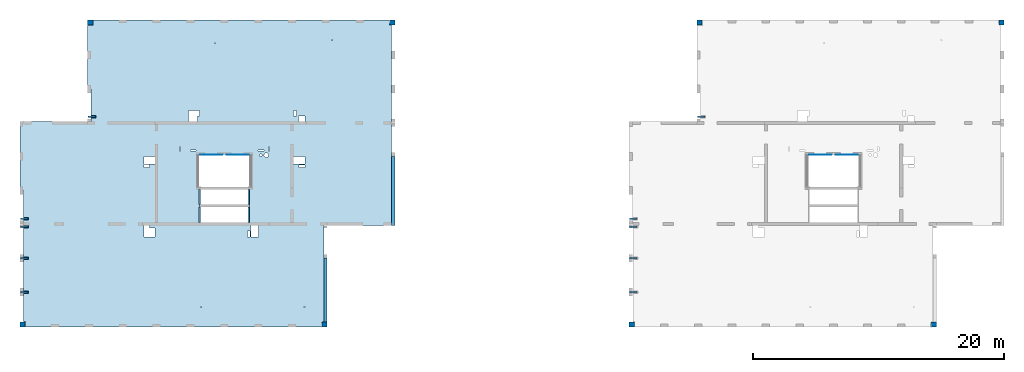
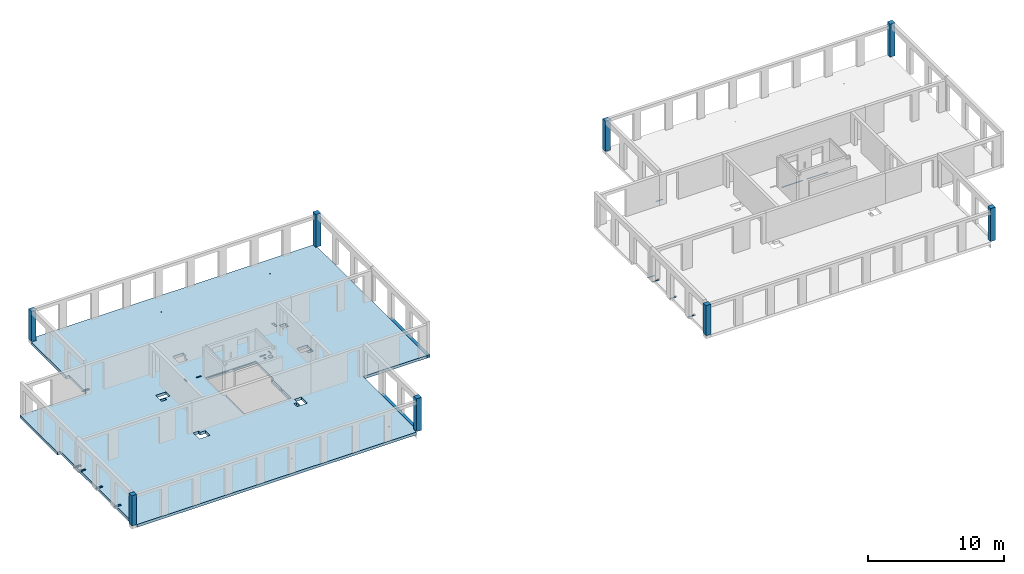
# One storey, part 1 of 13: 14 beams, 8 columns, 3 slabs, 34 openings.
"""IFC2X3 building model written with IfcOpenShell, lengths in millimetres."""

from ifc_helpers import new_model, entity, si_unit, converted_unit, derived_unit, direction, frame, frame_2d, origin, origin_2d_with_axis, place, context, subcontext, project, spatial, polyline, rectangle, circle, outline, extrude, source, transform, mapped, material, layer, layer_set, layer_usage, type_object, type_shapes, element, save


model = new_model("IFC2X3")

# Units and contexts
model_context = context("Model", 3, precision=0.01, world=origin(), true_north=direction((6.12303176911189e-17, 1.0)))
body_context = subcontext(model_context, "Body", "Model", "MODEL_VIEW")
ifc_project = project(units=[si_unit("LENGTHUNIT", "METRE", prefix="MILLI"), si_unit("AREAUNIT", "SQUARE_METRE"), si_unit("VOLUMEUNIT", "CUBIC_METRE"), converted_unit("PLANEANGLEUNIT", "DEGREE", entity("IfcRatioMeasure", 0.0174532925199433), si_unit("PLANEANGLEUNIT", "RADIAN"), dimensions=[0, 0, 0, 0, 0, 0, 0]), si_unit("MASSUNIT", "GRAM", prefix="KILO"), derived_unit("MASSDENSITYUNIT", [(si_unit("MASSUNIT", "GRAM", prefix="KILO"), 1), (si_unit("LENGTHUNIT", "METRE"), -3)]), si_unit("TIMEUNIT", "SECOND"), si_unit("FREQUENCYUNIT", "HERTZ"), si_unit("THERMODYNAMICTEMPERATUREUNIT", "DEGREE_CELSIUS"), derived_unit("THERMALTRANSMITTANCEUNIT", [(si_unit("MASSUNIT", "GRAM", prefix="KILO"), 1), (si_unit("THERMODYNAMICTEMPERATUREUNIT", "KELVIN"), -1), (si_unit("TIMEUNIT", "SECOND"), -3)]), derived_unit("VOLUMETRICFLOWRATEUNIT", [(si_unit("LENGTHUNIT", "METRE"), 3), (si_unit("TIMEUNIT", "SECOND"), -1)]), si_unit("ELECTRICCURRENTUNIT", "AMPERE"), si_unit("ELECTRICVOLTAGEUNIT", "VOLT"), si_unit("POWERUNIT", "WATT"), si_unit("FORCEUNIT", "NEWTON", prefix="KILO"), si_unit("ILLUMINANCEUNIT", "LUX"), si_unit("LUMINOUSFLUXUNIT", "LUMEN"), si_unit("LUMINOUSINTENSITYUNIT", "CANDELA"), derived_unit("USERDEFINED", [(si_unit("MASSUNIT", "GRAM", prefix="KILO"), -1), (si_unit("LENGTHUNIT", "METRE"), -2), (si_unit("TIMEUNIT", "SECOND"), 3), (si_unit("LUMINOUSFLUXUNIT", "LUMEN"), 1)]), derived_unit("LINEARVELOCITYUNIT", [(si_unit("LENGTHUNIT", "METRE"), 1), (si_unit("TIMEUNIT", "SECOND"), -1)]), si_unit("PRESSUREUNIT", "PASCAL"), derived_unit("USERDEFINED", [(si_unit("LENGTHUNIT", "METRE"), -2), (si_unit("MASSUNIT", "GRAM", prefix="KILO"), 1), (si_unit("TIMEUNIT", "SECOND"), -2)])], contexts=[model_context])

# Site, building, storey
site_placement = place(None, origin())
site = spatial("IfcSite", under=ifc_project, at=site_placement, Name="Default", CompositionType="ELEMENT")
building_placement = place(site_placement, origin())
building = spatial("IfcBuilding", under=site, at=building_placement, Name="niet gebruiken", CompositionType="ELEMENT")
storey_placement = place(building_placement, frame((0.0, 0.0, 60120.0)))
storey = spatial("IfcBuildingStorey", under=building, at=storey_placement, Name="20 twintigste verdieping", CompositionType="ELEMENT", Elevation=60120.0)

# Columns
ifc_material_1 = material(Name="NLRS_f2_beton prefab")
column_type_1 = type_object("IfcColumnType", Name="410x410", PredefinedType="COLUMN", material=ifc_material_1)
shared_shape_1 = source(origin(), body_context, "Body", "SweptSolid", [
    extrude(rectangle(XDim=410.000000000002, YDim=409.999999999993, at=frame_2d((-4.33431068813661e-12, 0.0), x_axis=(1.0, 0.0))), frame((99795.0, 28961.0, 60050.0), z_axis=(0.0, 0.0, 1.0), x_axis=(0.0, -1.0, 0.0)), (0.0, 0.0, 1.0), 2950.00000000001),
])
type_shapes(column_type_1, [shared_shape_1])
column_1_placement = place(storey_placement, frame((0.0, 0.0, -60120.0)))
element("IfcColumn", 1, at=column_1_placement, inside=storey, type_object=column_type_1, material=ifc_material_1, Name="NLRS_28. kolom vierkant_gen:410x410", ObjectType="410x410", context=body_context, shape_type="MappedRepresentation", body=[
    mapped(shared_shape_1, transform((0.0, 0.0, 0.0), scale=1.0)),
])
column_type_2 = type_object("IfcColumnType", Name="410x410", PredefinedType="COLUMN", material=ifc_material_1)
shared_shape_2 = source(origin(), body_context, "Body", "SweptSolid", [
    extrude(rectangle(XDim=410.0, YDim=410.0, at=origin_2d_with_axis()), frame((0.0, 0.0, 60050.0), z_axis=(0.0, 0.0, 1.0), x_axis=(0.0, -1.0, 0.0)), (0.0, 0.0, 1.0), 2700.0),
])
type_shapes(column_type_2, [shared_shape_2])
for number, where, z_axis, x_axis, name in (
    (2, (75705.0, 28961.0, -60120.0), (0.0, 0.0, 1.0), (0.0, 1.0, 0.0), "NLRS_28. kolom vierkant_gen1:410x410"),
    (3, (27105.0, 28961.0, -60120.0), (0.0, 0.0, 1.0), (0.0, 1.0, 0.0), "NLRS_28. kolom vierkant_gen1:410x410"),
):
    element("IfcColumn", number, at=place(storey_placement, frame(where, z_axis=z_axis, x_axis=x_axis)), inside=storey, type_object=column_type_2, material=ifc_material_1, Name=name, ObjectType="410x410", context=body_context, shape_type="MappedRepresentation", body=[
        mapped(shared_shape_2, transform((0.0, 0.0, 0.0), scale=1.0)),
    ])
column_type_3 = type_object("IfcColumnType", Name="410x410", PredefinedType="COLUMN", material=ifc_material_1)
shared_shape_3 = source(origin(), body_context, "Body", "SweptSolid", [
    extrude(rectangle(XDim=410.000000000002, YDim=409.999999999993, at=origin_2d_with_axis()), frame((105195.0, 53051.0, 60050.0), z_axis=(0.0, 0.0, 1.0), x_axis=(0.0, -1.0, 0.0)), (0.0, 0.0, 1.0), 2950.00000000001),
])
type_shapes(column_type_3, [shared_shape_3])
column_2_placement = place(storey_placement, frame((0.0, 0.0, -60120.0)))
element("IfcColumn", 4, at=column_2_placement, inside=storey, type_object=column_type_3, material=ifc_material_1, Name="NLRS_28. kolom vierkant_gen:410x410", ObjectType="410x410", context=body_context, shape_type="MappedRepresentation", body=[
    mapped(shared_shape_3, transform((0.0, 0.0, 0.0), scale=1.0)),
])
column_type_4 = type_object("IfcColumnType", Name="410x410", PredefinedType="COLUMN", material=ifc_material_1)
shared_shape_4 = source(origin(), body_context, "Body", "SweptSolid", [
    extrude(rectangle(XDim=410.0, YDim=410.0, at=origin_2d_with_axis()), frame((0.0, 0.0, 60050.0), z_axis=(0.0, 0.0, 1.0), x_axis=(0.0, -1.0, 0.0)), (0.0, 0.0, 1.0), 2700.0),
])
type_shapes(column_type_4, [shared_shape_4])
for number, where, name in (
    (5, (81105.0, 53051.0, -60120.0), "NLRS_28. kolom vierkant_gen:410x410"),
    (6, (32505.0, 53051.0, -60120.0), "NLRS_28. kolom vierkant_gen:410x410"),
):
    element("IfcColumn", number, at=place(storey_placement, frame(where)), inside=storey, type_object=column_type_4, material=ifc_material_1, Name=name, ObjectType="410x410", context=body_context, shape_type="MappedRepresentation", body=[
        mapped(shared_shape_4, transform((0.0, 0.0, 0.0), scale=1.0)),
    ])
column_type_5 = type_object("IfcColumnType", Name="410x410", PredefinedType="COLUMN", material=ifc_material_1)
shared_shape_5 = source(origin(), body_context, "Body", "SweptSolid", [
    extrude(rectangle(XDim=410.000000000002, YDim=410.000000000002, at=frame_2d((4.33431068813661e-12, 0.0), x_axis=(1.0, 0.0))), frame((51195.0, 28961.0, 60050.0), z_axis=(0.0, 0.0, 1.0), x_axis=(0.0, -1.0, 0.0)), (0.0, 0.0, 1.0), 2950.00000000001),
])
type_shapes(column_type_5, [shared_shape_5])
column_3_placement = place(storey_placement, frame((0.0, 0.0, -60120.0)))
element("IfcColumn", 7, at=column_3_placement, inside=storey, type_object=column_type_5, material=ifc_material_1, Name="NLRS_28. kolom vierkant_gen:410x410", ObjectType="410x410", context=body_context, shape_type="MappedRepresentation", body=[
    mapped(shared_shape_5, transform((0.0, 0.0, 0.0), scale=1.0)),
])
column_type_6 = type_object("IfcColumnType", Name="410x410", PredefinedType="COLUMN", material=ifc_material_1)
shared_shape_6 = source(origin(), body_context, "Body", "SweptSolid", [
    extrude(rectangle(XDim=410.000000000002, YDim=410.000000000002, at=origin_2d_with_axis()), frame((56595.0, 53051.0, 60050.0), z_axis=(0.0, 0.0, 1.0), x_axis=(0.0, -1.0, 0.0)), (0.0, 0.0, 1.0), 2950.00000000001),
])
type_shapes(column_type_6, [shared_shape_6])
column_4_placement = place(storey_placement, frame((0.0, 0.0, -60120.0)))
element("IfcColumn", 8, at=column_4_placement, inside=storey, type_object=column_type_6, material=ifc_material_1, Name="NLRS_28. kolom vierkant_gen:410x410", ObjectType="410x410", context=body_context, shape_type="MappedRepresentation", body=[
    mapped(shared_shape_6, transform((0.0, 0.0, 0.0), scale=1.0)),
])

# Beams
ifc_material_2 = material(Name="NLRS_h2_staal")
beam_type_1 = type_object("IfcBeamType", Name="ligger stripstaal RECT_120x10", PredefinedType="BEAM", material=ifc_material_2)
shared_shape_7 = source(origin(), body_context, "Body", "SweptSolid", [
    extrude(rectangle(XDim=599.999999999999, YDim=120.0, at=origin_2d_with_axis()), frame((0.0, 0.0, -5.0), z_axis=(0.0, 0.0, 1.0), x_axis=(-1.0, 0.0, 0.0)), (0.0, 0.0, 1.0), 9.99999999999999),
    extrude(rectangle(XDim=599.999999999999, YDim=120.0, at=origin_2d_with_axis()), frame((0.0, 0.0, -5.0), z_axis=(0.0, 0.0, 1.0), x_axis=(-1.0, 0.0, 0.0)), (0.0, 0.0, 1.0), 9.99999999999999),
])
type_shapes(beam_type_1, [shared_shape_7])
for number, where, name in (
    (9, (27235.0, 31556.0, -115.0), "NLRS_28.11_SF_WPB_stalen ligger stripstaal_gen:ligger stripstaal RECT_120x10"),
    (10, (27235.0, 34256.0, -115.0), "NLRS_28.11_SF_WPB_stalen ligger stripstaal_gen:ligger stripstaal RECT_120x10"),
    (11, (27235.0, 36766.0, -115.0), "NLRS_28.11_SF_WPB_stalen ligger stripstaal_gen:ligger stripstaal RECT_120x10"),
    (12, (75835.0, 31556.0, -115.0), "NLRS_28.11_SF_WPB_stalen ligger stripstaal_gen:ligger stripstaal RECT_120x10"),
    (13, (75835.0, 34256.0, -115.0), "NLRS_28.11_SF_WPB_stalen ligger stripstaal_gen:ligger stripstaal RECT_120x10"),
    (14, (75835.0, 36766.0, -115.0), "NLRS_28.11_SF_WPB_stalen ligger stripstaal_gen:ligger stripstaal RECT_120x10"),
):
    element("IfcBeam", number, at=place(storey_placement, frame(where)), inside=storey, type_object=beam_type_1, material=ifc_material_2, Name=name, ObjectType="ligger stripstaal RECT_120x10", context=body_context, shape_type="MappedRepresentation", body=[
        mapped(shared_shape_7, transform((0.0, 0.0, 0.0), scale=1.0)),
    ])
beam_type_2 = type_object("IfcBeamType", Name="NLRS_28.11_SF_WPB_Halfen 40-22_gen:ligger stripstaal RECT_100x10", PredefinedType="BEAM")
for number, where, name in (
    (15, (41264.9998491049, 42496.0, -160.0), "NLRS_28.11_SF_WPB_Halfen 40-22_gen:ligger stripstaal RECT_100x10"),
    (16, (43374.999849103, 42496.0, -160.0), "NLRS_28.11_SF_WPB_Halfen 40-22_gen:ligger stripstaal RECT_100x10"),
):
    element("IfcBeam", number, at=place(storey_placement, frame(where)), inside=storey, type_object=beam_type_2, material=ifc_material_2, Name=name, ObjectType="NLRS_28.11_SF_WPB_Halfen 40-22_gen:ligger stripstaal RECT_100x10", context=body_context, shape_type="SweptSolid", body=[
        extrude(outline(polyline([(-20.0, -8.0), (-9.0, -8.0), (-9.0, 0.0), (-11.0, 0.0), (-11.0, -6.0), (-18.0, -6.0), (-18.0, 13.0), (18.0, 13.0), (18.0, -6.0), (11.0, -6.0), (11.0, 0.0), (9.0, 0.0), (9.0, -8.0), (20.0, -8.0), (20.0, 15.0), (-20.0, 15.0), (-20.0, -8.0)])), frame((0.0, 8.0, 20.0), z_axis=(1.0, 0.0, 0.0), x_axis=(0.0, 0.0, -1.0)), (0.0, 0.0, 1.0), 1760.00000000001),
    ])
beam_1_placement = place(storey_placement, frame((89865.0, 42496.0, -160.0)))
element("IfcBeam", 17, at=beam_1_placement, inside=storey, type_object=beam_type_2, material=ifc_material_2, Name="NLRS_28.11_SF_WPB_Halfen 40-22_gen:ligger stripstaal RECT_100x10", ObjectType="NLRS_28.11_SF_WPB_Halfen 40-22_gen:ligger stripstaal RECT_100x10", context=body_context, shape_type="SweptSolid", body=[
    extrude(outline(polyline([(-20.0, -8.0), (-9.0, -8.0), (-9.0, 0.0), (-11.0, 0.0), (-11.0, -6.0), (-18.0, -6.0), (-18.0, 13.0), (18.0, 13.0), (18.0, -6.0), (11.0, -6.0), (11.0, 0.0), (9.0, 0.0), (9.0, -8.0), (20.0, -8.0), (20.0, 15.0), (-20.0, 15.0), (-20.0, -8.0)])), frame((0.0, 8.0, 20.0), z_axis=(1.0, 0.0, 0.0), x_axis=(0.0, 0.0, -1.0)), (0.0, 0.0, 1.0), 1760.00000000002),
])
beam_2_placement = place(storey_placement, frame((91975.0, 42496.0, -160.0)))
element("IfcBeam", 18, at=beam_2_placement, inside=storey, type_object=beam_type_2, material=ifc_material_2, Name="NLRS_28.11_SF_WPB_Halfen 40-22_gen:ligger stripstaal RECT_100x10", ObjectType="NLRS_28.11_SF_WPB_Halfen 40-22_gen:ligger stripstaal RECT_100x10", context=body_context, shape_type="SweptSolid", body=[
    extrude(outline(polyline([(-20.0, -8.0), (-9.0, -8.0), (-9.0, 0.0), (-11.0, 0.0), (-11.0, -6.0), (-18.0, -6.0), (-18.0, 13.0), (18.0, 13.0), (18.0, -6.0), (11.0, -6.0), (11.0, 0.0), (9.0, 0.0), (9.0, -8.0), (20.0, -8.0), (20.0, 15.0), (-20.0, 15.0), (-20.0, -8.0)])), frame((0.0, 8.0, 20.0), z_axis=(1.0, 0.0, 0.0), x_axis=(0.0, 0.0, -1.0)), (0.0, 0.0, 1.0), 1760.0),
])
beam_type_3 = type_object("IfcBeamType", Name="ligger stripstaal RECT_120x10", PredefinedType="BEAM", material=ifc_material_2)
shared_shape_8 = source(origin(), body_context, "Body", "SweptSolid", [
    extrude(rectangle(XDim=120.0, YDim=600.000000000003, at=origin_2d_with_axis()), frame((0.0, 0.0, -5.0), z_axis=(0.0, 0.0, 1.0), x_axis=(0.0, 1.0, 0.0)), (0.0, 0.0, 1.0), 9.99999999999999),
    extrude(rectangle(XDim=120.0, YDim=600.000000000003, at=origin_2d_with_axis()), frame((0.0, 0.0, -5.0), z_axis=(0.0, 0.0, 1.0), x_axis=(0.0, 1.0, 0.0)), (0.0, 0.0, 1.0), 9.99999999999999),
])
type_shapes(beam_type_3, [shared_shape_8])
for number, where, name in (
    (19, (27235.0, 37386.0, -115.0), "NLRS_28.11_SF_WPB_stalen ligger stripstaal_gen:ligger stripstaal RECT_120x10"),
    (20, (32635.0, 45521.0, -115.0), "NLRS_28.11_SF_WPB_stalen ligger stripstaal_gen:ligger stripstaal RECT_120x10"),
    (21, (75835.0, 37386.0, -115.0), "NLRS_28.11_SF_WPB_stalen ligger stripstaal_gen:ligger stripstaal RECT_120x10"),
    (22, (81235.0, 45521.0, -115.0), "NLRS_28.11_SF_WPB_stalen ligger stripstaal_gen:ligger stripstaal RECT_120x10"),
):
    element("IfcBeam", number, at=place(storey_placement, frame(where)), inside=storey, type_object=beam_type_3, material=ifc_material_2, Name=name, ObjectType="ligger stripstaal RECT_120x10", context=body_context, shape_type="MappedRepresentation", body=[
        mapped(shared_shape_8, transform((0.0, 0.0, 0.0), scale=1.0)),
    ])

# Slab, openings
ifc_material_3 = material(Name="NLRS_f2_beton ihwg")
ifc_layer = layer(ifc_material_3, 250.0)
ifc_layer_set = layer_set([ifc_layer], Name="Floor:NLRS_23.21_FL_beton ihwg d=250_gen")
ifc_layer_usage_1 = layer_usage(ifc_layer_set, "AXIS3", "POSITIVE", 0.0)
slab_1_placement = place(storey_placement, frame((26900.0, 28756.0, -340.0)))
slab_1 = element("IfcSlab", 23, at=slab_1_placement, inside=storey, material=ifc_layer_usage_1, Name="Floor:NLRS_23.21_FL_beton ihwg d=250_gen", ObjectType="Floor:NLRS_23.21_FL_beton ihwg d=250_gen", PredefinedType="FLOOR", context=body_context, shape_type="SweptSolid", body=[
    extrude(outline(polyline([(8995.0, 12250.0), (-14665.0, 12250.0), (-14665.0, 11840.0), (-14805.0, 11840.0), (-14805.0, 4060.0), (-14825.0, 4060.0), (-14825.0, -4150.0), (-9425.0, -4150.0), (-9425.0, -11890.0), (-9265.0, -11890.0), (-9265.0, -12250.0), (14395.0, -12250.0), (14395.0, -11820.0), (14535.0, -11820.0), (14535.0, -4040.0), (14555.0, -4040.0), (14555.0, -1350.0), (14825.0, -1350.0), (14825.0, 4150.0), (9155.0, 4150.0), (9155.0, 6750.0), (9425.0, 6750.0), (9425.0, 11820.0), (8995.0, 11820.0), (8995.0, 12250.0)])), frame((14825.0, 12250.0, 250.0), z_axis=(0.0, 0.0, -1.0), x_axis=(-1.0, 0.0, 0.0)), (0.0, 0.0, 1.0), 250.000000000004),
])
opening_1_placement = place(storey_placement, frame((26900.0, 28756.0, -340.0)))
element("IfcOpeningElement", 24, at=opening_1_placement, cuts=slab_1, ObjectType="Opening", context=body_context, shape_type="SweptSolid", body=[
    extrude(circle(Radius=37.5, at=frame_2d((-7875.0, -10650.0), x_axis=(1.0, 0.0))), frame((14825.0, 12250.0, 250.0), z_axis=(0.0, 0.0, -1.0), x_axis=(-1.0, 0.0, 0.0)), (0.0, 0.0, 1.0), 250.000000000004),
])
opening_2_placement = place(storey_placement, frame((26900.0, 28756.0, -340.0)))
element("IfcOpeningElement", 25, at=opening_2_placement, cuts=slab_1, ObjectType="Opening", context=body_context, shape_type="SweptSolid", body=[
    extrude(circle(Radius=37.5, at=frame_2d((-10075.0, 10650.0), x_axis=(1.0, 0.0))), frame((14825.0, 12250.0, 250.0), z_axis=(0.0, 0.0, -1.0), x_axis=(-1.0, 0.0, 0.0)), (0.0, 0.0, 1.0), 250.000000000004),
])
opening_3_placement = place(storey_placement, frame((26900.0, 28756.0, -340.0)))
element("IfcOpeningElement", 26, at=opening_3_placement, cuts=slab_1, ObjectType="Opening", context=body_context, shape_type="SweptSolid", body=[
    extrude(circle(Radius=37.5, at=frame_2d((-725.0, 10400.0), x_axis=(1.0, 0.0))), frame((14825.0, 12250.0, 250.0), z_axis=(0.0, 0.0, -1.0), x_axis=(-1.0, 0.0, 0.0)), (0.0, 0.0, 1.0), 250.000000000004),
])
opening_4_placement = place(storey_placement, frame((26900.0, 28756.0, -340.0)))
element("IfcOpeningElement", 27, at=opening_4_placement, cuts=slab_1, ObjectType="Opening", context=body_context, shape_type="SweptSolid", body=[
    extrude(circle(Radius=37.5, at=frame_2d((375.0, -10650.0), x_axis=(1.0, 0.0))), frame((14825.0, 12250.0, 250.0), z_axis=(0.0, 0.0, -1.0), x_axis=(-1.0, 0.0, 0.0)), (0.0, 0.0, 1.0), 250.000000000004),
])
opening_5_placement = place(slab_1_placement, origin())
element("IfcOpeningElement", 28, at=opening_5_placement, cuts=slab_1, ObjectType="Opening", context=body_context, shape_type="SweptSolid", body=[
    extrude(rectangle(XDim=110.000000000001, YDim=1220.0, at=origin_2d_with_axis()), frame((14344.999934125, 10380.0, 210.0)), (0.0, 0.0, 1.0), 39.9999999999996),
])
opening_6_placement = place(slab_1_placement, origin())
element("IfcOpeningElement", 29, at=opening_6_placement, cuts=slab_1, ObjectType="Opening", context=body_context, shape_type="SweptSolid", body=[
    extrude(rectangle(XDim=110.000000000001, YDim=1220.0, at=origin_2d_with_axis()), frame((18254.9997832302, 10380.0, 210.0)), (0.0, 0.0, 1.0), 39.9999999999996),
])
opening_7_placement = place(slab_1_placement, origin())
element("IfcOpeningElement", 30, at=opening_7_placement, cuts=slab_1, ObjectType="Opening", context=body_context, shape_type="SweptSolid", body=[
    extrude(rectangle(XDim=110.000000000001, YDim=1220.0, at=origin_2d_with_axis()), frame((18255.0, 8960.0, 210.0)), (0.0, 0.0, 1.0), 39.9999999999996),
])
opening_8_placement = place(slab_1_placement, origin())
element("IfcOpeningElement", 31, at=opening_8_placement, cuts=slab_1, ObjectType="Opening", context=body_context, shape_type="SweptSolid", body=[
    extrude(rectangle(XDim=110.000000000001, YDim=1220.0, at=origin_2d_with_axis()), frame((14344.9995993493, 8960.0, 210.0)), (0.0, 0.0, 1.0), 39.9999999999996),
])
opening_9_placement = place(slab_1_placement, origin())
element("IfcOpeningElement", 32, at=opening_9_placement, cuts=slab_1, ObjectType="Opening", context=body_context, shape_type="SweptSolid", body=[
    extrude(rectangle(XDim=400.000000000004, YDim=199.999999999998, at=origin_2d_with_axis()), frame((5870.0, 16765.0, 220.0)), (0.0, 0.0, 1.0), 30.0000000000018),
])
opening_10_placement = place(slab_1_placement, origin())
element("IfcOpeningElement", 33, at=opening_10_placement, cuts=slab_1, ObjectType="Opening", context=body_context, shape_type="SweptSolid", body=[
    extrude(rectangle(XDim=400.000000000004, YDim=200.000000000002, at=origin_2d_with_axis()), frame((470.0, 8630.0, 220.0)), (0.0, 0.0, 1.0), 30.0000000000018),
])
opening_11_placement = place(slab_1_placement, origin())
element("IfcOpeningElement", 34, at=opening_11_placement, cuts=slab_1, ObjectType="Opening", context=body_context, shape_type="SweptSolid", body=[
    extrude(rectangle(XDim=200.000000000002, YDim=400.000000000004, at=origin_2d_with_axis()), frame((490.0, 8000.0, 220.0), z_axis=(0.0, 0.0, 1.0), x_axis=(0.0, -1.0, 0.0)), (0.0, 0.0, 1.0), 30.0000000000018),
])
opening_12_placement = place(slab_1_placement, origin())
element("IfcOpeningElement", 35, at=opening_12_placement, cuts=slab_1, ObjectType="Opening", context=body_context, shape_type="SweptSolid", body=[
    extrude(rectangle(XDim=200.000000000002, YDim=400.000000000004, at=origin_2d_with_axis()), frame((490.0, 5500.0, 220.0), z_axis=(0.0, 0.0, 1.0), x_axis=(0.0, -1.0, 0.0)), (0.0, 0.0, 1.0), 30.0000000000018),
])
opening_13_placement = place(slab_1_placement, origin())
element("IfcOpeningElement", 36, at=opening_13_placement, cuts=slab_1, ObjectType="Opening", context=body_context, shape_type="SweptSolid", body=[
    extrude(rectangle(XDim=200.000000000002, YDim=400.000000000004, at=origin_2d_with_axis()), frame((490.0, 2800.0, 220.0), z_axis=(0.0, 0.0, 1.0), x_axis=(0.0, -1.0, 0.0)), (0.0, 0.0, 1.0), 30.0000000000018),
])
opening_14_placement = place(slab_1_placement, origin())
element("IfcOpeningElement", 37, at=opening_14_placement, cuts=slab_1, ObjectType="Opening", context=body_context, shape_type="SweptSolid", body=[
    extrude(rectangle(XDim=900.000000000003, YDim=729.999999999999, at=origin_2d_with_axis()), frame((13800.0, 16850.0, 0.0), z_axis=(0.0, 0.0, 1.0), x_axis=(0.0, 1.0, 0.0)), (0.0, 0.0, 1.0), 250.000000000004),
])
opening_15_placement = place(slab_1_placement, origin())
element("IfcOpeningElement", 38, at=opening_15_placement, cuts=slab_1, ObjectType="Opening", context=body_context, shape_type="SweptSolid", body=[
    extrude(rectangle(XDim=170.000000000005, YDim=450.000000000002, at=origin_2d_with_axis()), frame((14250.0, 17075.0, 0.0), z_axis=(0.0, 0.0, 1.0), x_axis=(-1.0, 0.0, 0.0)), (0.0, 0.0, 1.0), 250.000000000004),
])
opening_16_placement = place(slab_1_placement, origin())
element("IfcOpeningElement", 39, at=opening_16_placement, cuts=slab_1, ObjectType="Opening", context=body_context, shape_type="SweptSolid", body=[
    extrude(rectangle(XDim=900.000000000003, YDim=700.000000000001, at=origin_2d_with_axis()), frame((10325.0, 7550.0, 0.0), z_axis=(0.0, 0.0, 1.0), x_axis=(-1.0, 0.0, 0.0)), (0.0, 0.0, 1.0), 250.000000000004),
])
opening_17_placement = place(slab_1_placement, origin())
element("IfcOpeningElement", 40, at=opening_17_placement, cuts=slab_1, ObjectType="Opening", context=body_context, shape_type="SweptSolid", body=[
    extrude(rectangle(XDim=200.000000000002, YDim=450.000000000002, at=origin_2d_with_axis()), frame((10100.0, 8000.0, 0.0), z_axis=(0.0, 0.0, 1.0), x_axis=(0.0, -1.0, 0.0)), (0.0, 0.0, 1.0), 250.000000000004),
])
opening_18_placement = place(slab_1_placement, origin())
element("IfcOpeningElement", 41, at=opening_18_placement, cuts=slab_1, ObjectType="Opening", context=body_context, shape_type="SweptSolid", body=[
    extrude(rectangle(XDim=900.000000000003, YDim=600.000000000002, at=origin_2d_with_axis()), frame((10325.0, 13330.0, 0.0), z_axis=(0.0, 0.0, 1.0), x_axis=(-1.0, 0.0, 0.0)), (0.0, 0.0, 1.0), 250.000000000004),
])
opening_19_placement = place(slab_1_placement, origin())
element("IfcOpeningElement", 42, at=opening_19_placement, cuts=slab_1, ObjectType="Opening", context=body_context, shape_type="SweptSolid", body=[
    extrude(rectangle(XDim=450.000000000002, YDim=499.999999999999, at=origin_2d_with_axis()), frame((22475.0, 16625.0, 0.0), z_axis=(0.0, 0.0, 1.0), x_axis=(0.0, 1.0, 0.0)), (0.0, 0.0, 1.0), 250.000000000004),
])
opening_20_placement = place(slab_1_placement, origin())
element("IfcOpeningElement", 43, at=opening_20_placement, cuts=slab_1, ObjectType="Opening", context=body_context, shape_type="SweptSolid", body=[
    extrude(rectangle(XDim=899.999999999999, YDim=600.000000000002, at=origin_2d_with_axis()), frame((18729.9818996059, 7650.0, 0.0), z_axis=(0.0, 0.0, 1.0), x_axis=(0.0, 1.0, 0.0)), (0.0, 0.0, 1.0), 250.000000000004),
])
opening_21_placement = place(slab_1_placement, origin())
element("IfcOpeningElement", 44, at=opening_21_placement, cuts=slab_1, ObjectType="Opening", context=body_context, shape_type="SweptSolid", body=[
    extrude(rectangle(XDim=900.000000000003, YDim=600.000000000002, at=origin_2d_with_axis()), frame((22275.0, 13330.0, 0.0), z_axis=(0.0, 0.0, 1.0), x_axis=(-1.0, 0.0, 0.0)), (0.0, 0.0, 1.0), 250.000000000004),
])
opening_22_placement = place(slab_1_placement, origin())
element("IfcOpeningElement", 45, at=opening_22_placement, cuts=slab_1, ObjectType="Opening", context=body_context, shape_type="SweptSolid", body=[
    extrude(rectangle(XDim=1760.00000000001, YDim=23.0000000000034, at=origin_2d_with_axis()), frame((15244.9998491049, 13751.4999999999, 180.0)), (0.0, 0.0, 1.0), 40.0000000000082),
])
opening_23_placement = place(slab_1_placement, origin())
element("IfcOpeningElement", 46, at=opening_23_placement, cuts=slab_1, ObjectType="Opening", context=body_context, shape_type="SweptSolid", body=[
    extrude(rectangle(XDim=1760.00000000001, YDim=23.0000000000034, at=origin_2d_with_axis()), frame((17354.999849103, 13751.4999999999, 180.0)), (0.0, 0.0, 1.0), 40.0000000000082),
])
opening_24_placement = place(slab_1_placement, origin())
element("IfcOpeningElement", 47, at=opening_24_placement, cuts=slab_1, ObjectType="Opening", context=body_context, shape_type="SweptSolid", body=[
    extrude(rectangle(XDim=100.000000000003, YDim=490.000000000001, at=origin_2d_with_axis()), frame((19225.0, 14090.0, 0.0), z_axis=(0.0, 0.0, 1.0), x_axis=(0.0, -1.0, 0.0)), (0.0, 0.0, 1.0), 250.000000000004),
])
opening_25_placement = place(slab_1_placement, origin())
element("IfcOpeningElement", 48, at=opening_25_placement, cuts=slab_1, ObjectType="Opening", context=body_context, shape_type="SweptSolid", body=[
    extrude(rectangle(XDim=100.000000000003, YDim=340.000000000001, at=origin_2d_with_axis()), frame((19865.0, 14210.0, 0.0), z_axis=(0.0, 0.0, 1.0), x_axis=(-1.0, 0.0, 0.0)), (0.0, 0.0, 1.0), 250.000000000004),
])
opening_26_placement = place(slab_1_placement, origin())
element("IfcOpeningElement", 49, at=opening_26_placement, cuts=slab_1, ObjectType="Opening", context=body_context, shape_type="SweptSolid", body=[
    extrude(rectangle(XDim=100.000000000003, YDim=440.000000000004, at=origin_2d_with_axis()), frame((13805.0, 14090.0, 0.0), z_axis=(0.0, 0.0, 1.0), x_axis=(0.0, -1.0, 0.0)), (0.0, 0.0, 1.0), 250.000000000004),
])
opening_27_placement = place(slab_1_placement, origin())
element("IfcOpeningElement", 50, at=opening_27_placement, cuts=slab_1, ObjectType="Opening", context=body_context, shape_type="SweptSolid", body=[
    extrude(rectangle(XDim=100.000000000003, YDim=340.000000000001, at=origin_2d_with_axis()), frame((12755.0, 14210.0, 0.0), z_axis=(0.0, 0.0, 1.0), x_axis=(-1.0, 0.0, 0.0)), (0.0, 0.0, 1.0), 250.000000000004),
])
opening_28_placement = place(slab_1_placement, origin())
element("IfcOpeningElement", 51, at=opening_28_placement, cuts=slab_1, ObjectType="Opening", context=body_context, shape_type="SweptSolid", body=[
    extrude(rectangle(XDim=230.0, YDim=450.000000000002, at=origin_2d_with_axis()), frame((10100.0000865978, 12845.0002270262, 0.0), z_axis=(0.0, 0.0, 1.0), x_axis=(0.0, -1.0, 0.0)), (0.0, 0.0, 1.0), 250.000000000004),
])
opening_29_placement = place(slab_1_placement, origin())
element("IfcOpeningElement", 52, at=opening_29_placement, cuts=slab_1, ObjectType="Opening", context=body_context, shape_type="SweptSolid", body=[
    extrude(rectangle(XDim=220.000000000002, YDim=450.000000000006, at=origin_2d_with_axis()), frame((18240.0, 7425.0, 0.0)), (0.0, 0.0, 1.0), 250.000000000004),
])
opening_30_placement = place(slab_1_placement, origin())
element("IfcOpeningElement", 53, at=opening_30_placement, cuts=slab_1, ObjectType="Opening", context=body_context, shape_type="SweptSolid", body=[
    extrude(rectangle(XDim=220.000000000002, YDim=450.000000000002, at=origin_2d_with_axis()), frame((22500.0, 12840.0, 0.0), z_axis=(0.0, 0.0, 1.0), x_axis=(0.0, -1.0, 0.0)), (0.0, 0.0, 1.0), 250.000000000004),
])
opening_31_placement = place(slab_1_placement, origin())
element("IfcOpeningElement", 54, at=opening_31_placement, cuts=slab_1, ObjectType="Opening", context=body_context, shape_type="SweptSolid", body=[
    extrude(rectangle(XDim=220.000000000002, YDim=450.000000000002, at=origin_2d_with_axis()), frame((21935.0, 17075.0, 0.0), z_axis=(0.0, 0.0, 1.0), x_axis=(-1.0, 0.0, 0.0)), (0.0, 0.0, 1.0), 250.000000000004),
])
opening_32_placement = place(slab_1_placement, origin())
element("IfcOpeningElement", 55, at=opening_32_placement, cuts=slab_1, ObjectType="Opening", context=body_context, shape_type="SweptSolid", body=[
    extrude(circle(Radius=100.0, at=origin_2d_with_axis()), frame((19200.0, 13720.0, 0.0)), (0.0, 0.0, 1.0), 250.000000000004),
])
opening_33_placement = place(slab_1_placement, origin())
element("IfcOpeningElement", 56, at=opening_33_placement, cuts=slab_1, ObjectType="Opening", context=body_context, shape_type="SweptSolid", body=[
    extrude(circle(Radius=177.5, at=origin_2d_with_axis()), frame((19650.0, 13720.0, 0.0)), (0.0, 0.0, 1.0), 250.000000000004),
])
opening_34_placement = place(slab_1_placement, frame((16299.999929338, 10378.7499999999, 250.0)))
element("IfcOpeningElement", 57, at=opening_34_placement, cuts=slab_1, Name="Floor:NLRS_23.21_FL_beton ihwg d=250_gen:2", ObjectType="Opening", context=body_context, shape_type="SweptSolid", body=[
    extrude(outline(polyline([(-1899.99985389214, -2028.75000000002), (1899.99999521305, -2028.75000000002), (1899.99999521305, -808.750000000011), (1999.9999293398, -808.750000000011), (1999.9999293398, -608.750000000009), (1899.99999521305, -608.750000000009), (1899.99999521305, 751.250000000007), (2134.99992933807, 751.250000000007), (2134.99992933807, 3361.24999999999), (-2135.00007065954, 3361.24999999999), (-2135.00007065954, 751.249999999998), (-1899.99985389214, 751.249999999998), (-1899.99985389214, -608.750000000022), (-2000.00007066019, -608.750000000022), (-2000.00007066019, -808.750000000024), (-1899.99985389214, -808.750000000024), (-1899.99985389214, -2028.75000000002)])), frame((0.0, 0.0, 0.0), z_axis=(0.0, 0.0, -1.0), x_axis=(-1.0, 0.0, 0.0)), (0.0, 0.0, 1.0), 250.000000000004),
])

# Slabs
ifc_layer_usage_2 = layer_usage(ifc_layer_set, "AXIS3", "POSITIVE", 0.0)
slab_2_placement = place(storey_placement, origin())
element("IfcSlab", 58, at=slab_2_placement, inside=storey, material=ifc_layer_usage_2, Name="Floor:NLRS_23.21_FL_beton ihwg d=250_gen", ObjectType="Floor:NLRS_23.21_FL_beton ihwg d=250_gen", PredefinedType="FLOOR", context=body_context, shape_type="SweptSolid", body=[
    extrude(rectangle(XDim=5140.00000000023, YDim=250.000065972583, at=frame_2d((0.0, -4.32720526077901e-12), x_axis=(1.0, 0.0))), frame((51275.0, 31686.0, -90.0), z_axis=(0.0, 0.0, -1.0), x_axis=(0.0, 1.0, 0.0)), (0.0, 0.0, 1.0), 250.000000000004),
])
ifc_layer_usage_3 = layer_usage(ifc_layer_set, "AXIS3", "POSITIVE", 0.0)
slab_3_placement = place(storey_placement, origin())
element("IfcSlab", 59, at=slab_3_placement, inside=storey, material=ifc_layer_usage_3, Name="Floor:NLRS_23.21_FL_beton ihwg d=250_gen", ObjectType="Floor:NLRS_23.21_FL_beton ihwg d=250_gen", PredefinedType="FLOOR", context=body_context, shape_type="SweptSolid", body=[
    extrude(rectangle(XDim=5500.00000000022, YDim=249.999999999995, at=frame_2d((2.04636307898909e-12, 0.0), x_axis=(1.0, 0.0))), frame((56675.0, 39606.0, -90.0), z_axis=(0.0, 0.0, -1.0), x_axis=(0.0, 1.0, 0.0)), (0.0, 0.0, 1.0), 250.000000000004),
])

save(model, "model.ifc")
